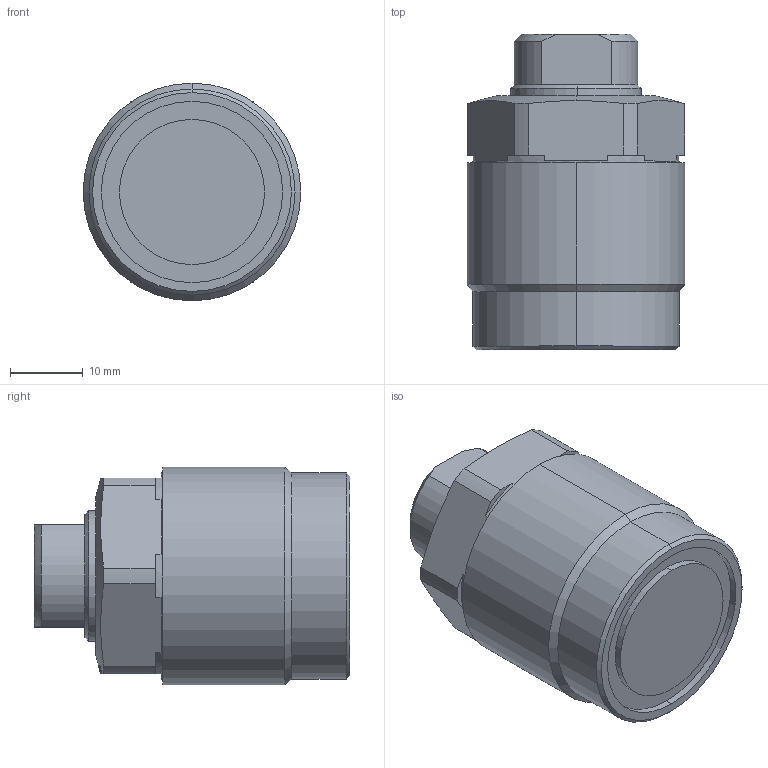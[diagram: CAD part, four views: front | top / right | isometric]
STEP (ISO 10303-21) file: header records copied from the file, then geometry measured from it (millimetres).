
FILE_DESCRIPTION (( 'STEP AP203' ), '1' );
FILE_NAME ('T03C-M303-S threaded pusher.STEP', '2022-07-09T17:40:55', ( '' ), ( '' ), 'SwSTEP 2.0', 'SolidWorks 2017', '' );
FILE_SCHEMA (( 'CONFIG_CONTROL_DESIGN' ));
Length unit declared in the file: millimetre
Products named in the file (3): T03C-M303-S part-1; T03C-M303-S part-2; T03C-M303-S threaded pusher
Assembly tree (2 placements, depth 2):
  T03C-M303-S threaded pusher
    T03C-M303-S part-1
    T03C-M303-S part-2
Bounding box: 30 x 43.5 x 30 mm (x, y, z)
Volume: 30399.9 mm3; surface area: 7229.3 mm2
Topology: 2 solids, 2 shells, 268 faces, 712 edges, 469 vertices
Faces by surface type: plane 118, bspline 114, cylinder 22, cone 14
Entity records: 14100 total; most frequent: CARTESIAN_POINT 7981, ORIENTED_EDGE 1420, DIRECTION 810, EDGE_CURVE 710, VERTEX_POINT 469, VECTOR 360, LINE 360, EDGE_LOOP 291
